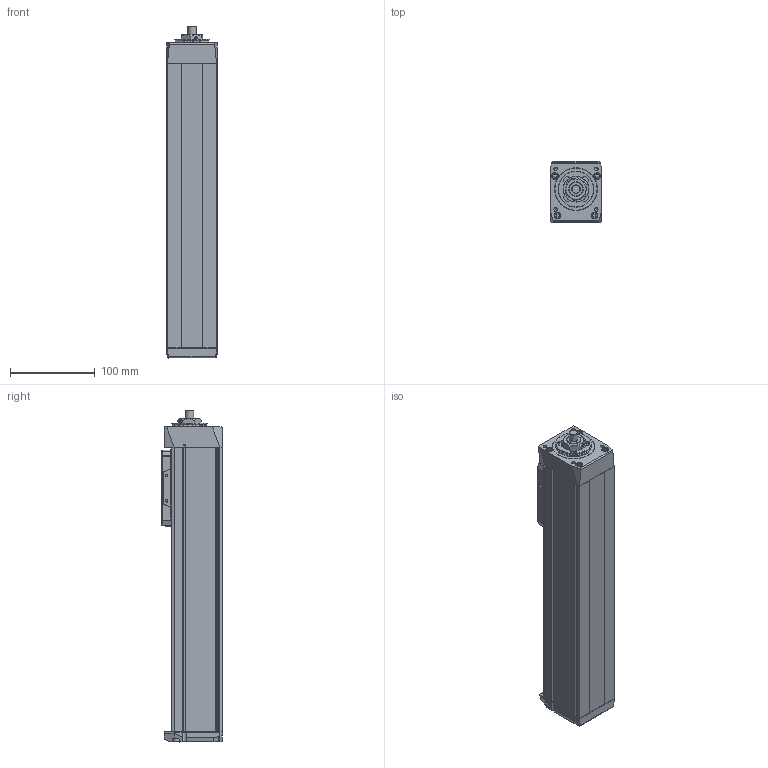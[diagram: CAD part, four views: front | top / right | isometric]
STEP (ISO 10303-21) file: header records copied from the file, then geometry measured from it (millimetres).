
FILE_DESCRIPTION(/* description */ ('STEP AP214'),/* implementation_level */ '2;1');
FILE_NAME(/* name */ 'MGBS 60 1210 200(0)',/* time_stamp */ '2023-04-17T13:16:56+02:00',/* author */ ('License CC BY-ND 4.0'),/* organization */ ('CADENAS'),/* preprocessor_version */ 'ST-DEVELOPER v19.3',/* originating_system */ 'PARTsolutions',/* authorisation */ ' ');
FILE_SCHEMA (('AUTOMOTIVE_DESIGN {1 0 10303 214 3 1 1}'));
Length unit declared in the file: millimetre
Products named in the file (6): MGBS 60 1210 200(0); MGBS 60 200_protection_strip; MGBS 60_carriage; MGBS 60_end_block; MGBS 60 200_profile; MGBS 60_drive_block
Assembly tree (5 placements, depth 2):
  MGBS 60 1210 200(0)
    MGBS 60 200_protection_strip
    MGBS 60_carriage
    MGBS 60_end_block
    MGBS 60 200_profile
    MGBS 60_drive_block
Bounding box: 60 x 72 x 392 mm (x, y, z)
Volume: 1359570.4 mm3; surface area: 183652.5 mm2
Topology: 5 solids, 5 shells, 694 faces, 1756 edges, 1135 vertices
Faces by surface type: plane 366, cylinder 144, cone 97, bspline 62, torus 23, sphere 2
Full cylindrical faces by diameter (mm): 2.459 x2, 2.46 x2, 3.242 x4, 4 x14, 4.134 x8, 4.8 x2, 5 x2, 5.5 x4, 7 x8, 7.6 x4, 8 x2, 10 x1, 11 x3, 23.8 x1, 30 x1, 42 x2, 50.2 x1
Entity records: 24817 total; most frequent: CARTESIAN_POINT 4104, DIRECTION 3372, ORIENTED_EDGE 3194, EDGE_CURVE 1597, AXIS2_PLACEMENT_3D 1197, VERTEX_POINT 1113, LINE 978, VECTOR 978
